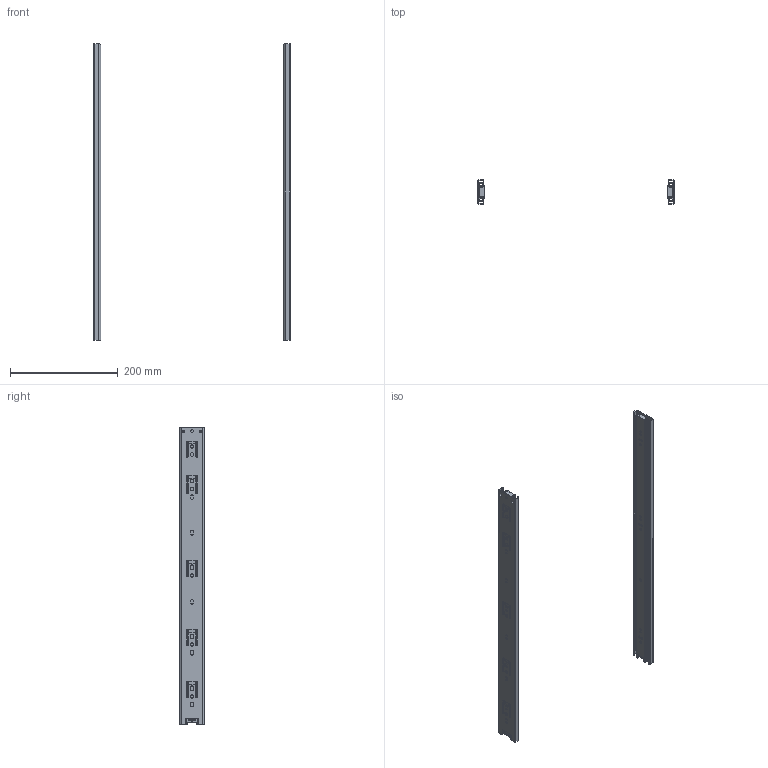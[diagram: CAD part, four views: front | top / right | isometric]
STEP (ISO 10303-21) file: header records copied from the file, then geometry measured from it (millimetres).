
FILE_DESCRIPTION(/* description */ (''),/* implementation_level */ '2;1');
FILE_NAME(/* name */ 'D:\$Workingspace\Designs\Katalog\Cadsoft\GTV Prowadnice\Prowadnice GTV_bryły 3D\PK-0H45550GX.stp',/* time_stamp */ '2016-11-22T11:50:35+01:00',/* author */ ('tomaszw'),/* organization */ (''),/* preprocessor_version */ 'ST-DEVELOPER v16.1',/* originating_system */ 'Autodesk Inventor 2016',/* authorisation */ '');
FILE_SCHEMA (('AUTOMOTIVE_DESIGN { 1 0 10303 214 3 1 1 }'));
Length unit declared in the file: millimetre
Products named in the file (5): Blokada_5; PK-0H45_1-550-GX; PK-0H45_2-550-GX; PK-0H45_3-550-GX; PK-0H45-_-GX
Assembly tree (8 placements, depth 2):
  PK-0H45-_-GX
    Blokada_5  x2
    PK-0H45_1-550-GX  x2
    PK-0H45_2-550-GX  x2
    PK-0H45_3-550-GX  x2
Bounding box: 364 x 44.5 x 550 mm (x, y, z)
Volume: 164389.4 mm3; surface area: 335858.7 mm2
Topology: 8 solids, 8 shells, 544 faces, 1576 edges, 1048 vertices
Faces by surface type: cylinder 280, plane 260, cone 4
Full cylindrical faces by diameter (mm): 4.5 x6, 5 x2, 5.1 x2, 6 x10, 7 x4
Entity records: 9542 total; most frequent: DIRECTION 1616, CARTESIAN_POINT 1611, ORIENTED_EDGE 1552, EDGE_CURVE 776, AXIS2_PLACEMENT_3D 563, VERTEX_POINT 524, LINE 490, VECTOR 490
